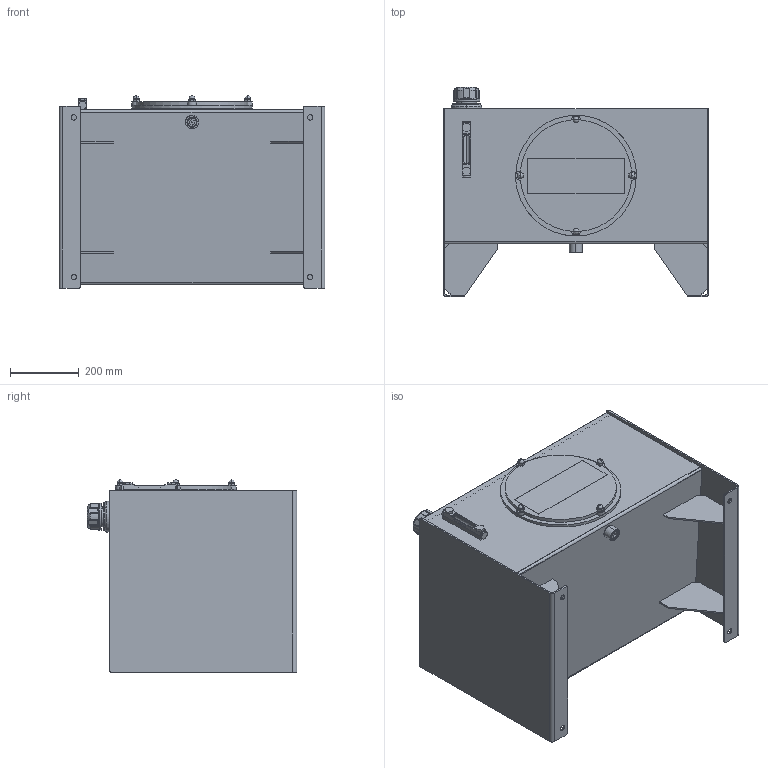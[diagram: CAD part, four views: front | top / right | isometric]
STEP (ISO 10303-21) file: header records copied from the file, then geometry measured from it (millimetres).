
FILE_DESCRIPTION (( 'STEP AP214' ), '1' );
FILE_NAME ('RDIN030-AFA.STEP', '2019-06-20T13:57:27', ( 'Owner' ), ( '' ), 'SwSTEP 2.0', 'SolidWorks 2018', '' );
FILE_SCHEMA (( 'AUTOMOTIVE_DESIGN' ));
Length unit declared in the file: inch
Products named in the file (21): Weld Riser; RDIN030-AFA-GUSSET1; RDIN030-AFA-GUSSET2; FB-H008W; 8162-008-3_4534K45; S12; RHJ-PLUG-016; QSTSBUR00080008; REC-M350K; PLLG-05T; FB-F008_FB-F-008; REC-M350C-4; RDIN030-AFA-BODY_RJIC020-BODY; RDIN030-AFA-LEND; FB-S-W; BHS8100-15350; RDIN030-AFA; RHJ-PLUG-200; RDIN030-AFA-TOP; FB-C-H_FB-H008W; RDIN030-AFA-REND
Assembly tree (26 placements, depth 3):
  RHJ-PLUG-016
  RDIN030-AFA
    RDIN030-AFA-BODY_RJIC020-BODY
    RDIN030-AFA-LEND
    RDIN030-AFA-REND
    RDIN030-AFA-TOP
    Weld Riser
    FB-H008W
      FB-F008_FB-F-008
      FB-S-W
      FB-C-H_FB-H008W
    BHS8100-15350  x4
    PLLG-05T
    REC-M350K
      REC-M350C-4
    S12
    8162-008-3_4534K45
    RDIN030-AFA-GUSSET1  x2
    RDIN030-AFA-GUSSET2  x2
    QSTSBUR00080008  x4
  RHJ-PLUG-200
Bounding box: 771.51 x 607.63 x 557.77 mm (x, y, z)
Volume: 9107193.9 mm3; surface area: 4496124.9 mm2
Topology: 31 solids, 31 shells, 1040 faces, 2442 edges, 1462 vertices
Faces by surface type: plane 369, cylinder 345, torus 102, bspline 88, cone 88, sphere 48
Entity records: 33197 total; most frequent: CARTESIAN_POINT 9364, DIRECTION 4880, ORIENTED_EDGE 4512, EDGE_CURVE 2256, AXIS2_PLACEMENT_3D 1952, VERTEX_POINT 1356, EDGE_LOOP 1088, CIRCLE 1044
